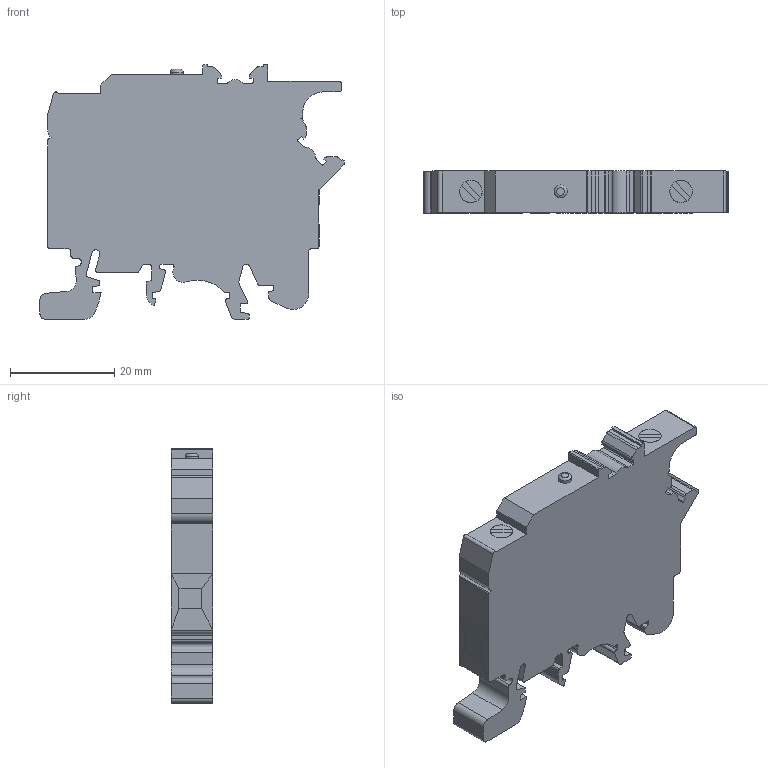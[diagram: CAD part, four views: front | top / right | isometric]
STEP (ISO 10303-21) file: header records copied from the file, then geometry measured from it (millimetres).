
FILE_DESCRIPTION( ( 'Unknown' ), '1' );
FILE_NAME( 'Z:/Product Configurator/3d/CF4UL110-240V.stp', 'Unknown', ( 'Unknown' ), ( 'Unknown' ), 'PSStep 17.0.49', 'Unknown', ' ' );
FILE_SCHEMA( ( 'AUTOMOTIVE_DESIGN { 1 0 10303 214 1 1 1 1 }' ) );
Length unit declared in the file: millimetre
Products named in the file (1): 1
Bounding box: 58.3 x 8 x 48.8 mm (x, y, z)
Volume: 16373.6 mm3; surface area: 6600.7 mm2
Topology: 1 solids, 1 shells, 219 faces, 617 edges, 403 vertices
Faces by surface type: plane 140, cylinder 78, torus 1
Full cylindrical faces by diameter (mm): 2.5 x1, 4.3 x2
Entity records: 7031 total; most frequent: CARTESIAN_POINT 1232, ORIENTED_EDGE 1222, DIRECTION 1214, EDGE_CURVE 611, LINE 448, VECTOR 448, VERTEX_POINT 401, AXIS2_PLACEMENT_3D 383
